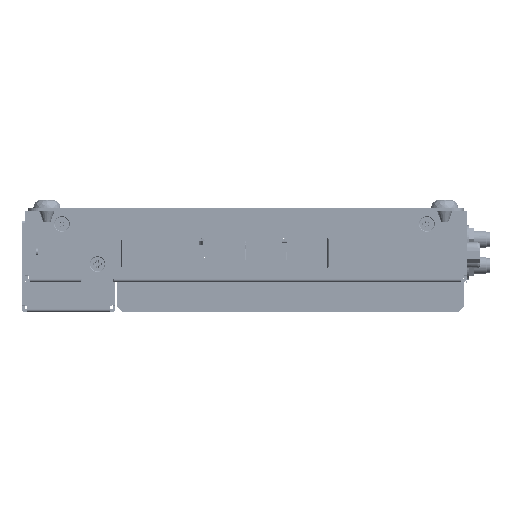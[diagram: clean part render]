
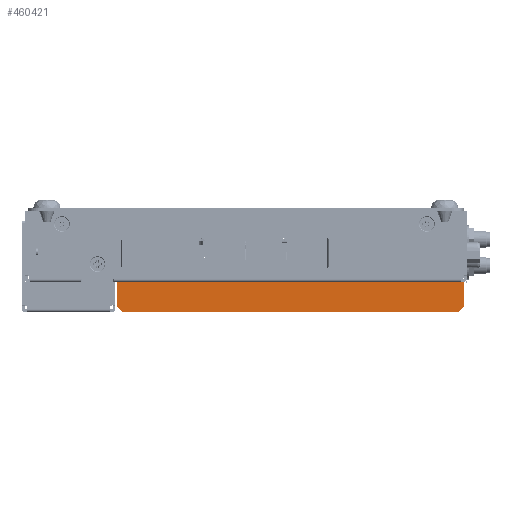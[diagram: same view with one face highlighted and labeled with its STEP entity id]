
A CAD part, left-side view. The second image highlights one B-rep face of the part: STEP entity #460421.
In plain terms, the highlighted planar face has unit normal (-1, 0, 0).
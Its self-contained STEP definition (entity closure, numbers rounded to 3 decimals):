
#103759=DIRECTION('',(0.,1.,0.));
#103760=VECTOR('',#103759,126.5);
#103761=CARTESIAN_POINT('',(-123.5,1.,-17.6));
#103762=LINE('',#103761,#103760);
#120802=DIRECTION('',(0.,0.,-1.));
#120803=VECTOR('',#120802,9.);
#120804=CARTESIAN_POINT('',(-123.5,1.,-17.6));
#120805=LINE('',#120804,#120803);
#120806=DIRECTION('',(0.,0.707,-0.707));
#120807=VECTOR('',#120806,2.828);
#120808=CARTESIAN_POINT('',(-123.5,1.,-26.6));
#120809=LINE('',#120808,#120807);
#120810=DIRECTION('',(0.,0.707,0.707));
#120811=VECTOR('',#120810,2.828);
#120812=CARTESIAN_POINT('',(-123.5,125.5,-28.6));
#120813=LINE('',#120812,#120811);
#120814=DIRECTION('',(0.,0.,1.));
#120815=VECTOR('',#120814,9.);
#120816=CARTESIAN_POINT('',(-123.5,127.5,-26.6));
#120817=LINE('',#120816,#120815);
#124154=DIRECTION('',(0.,1.,0.));
#124155=VECTOR('',#124154,122.5);
#124156=CARTESIAN_POINT('',(-123.5,3.,-28.6));
#124157=LINE('',#124156,#124155);
#201900=CARTESIAN_POINT('',(-123.5,1.,-26.6));
#201901=CARTESIAN_POINT('',(-123.5,3.,-28.6));
#201902=VERTEX_POINT('',#201900);
#201903=VERTEX_POINT('',#201901);
#202153=CARTESIAN_POINT('',(-123.5,127.5,-26.6));
#202155=VERTEX_POINT('',#202153);
#202634=CARTESIAN_POINT('',(-123.5,125.5,-28.6));
#202635=VERTEX_POINT('',#202634);
#255957=CARTESIAN_POINT('',(-123.5,1.,-17.6));
#255959=VERTEX_POINT('',#255957);
#255983=CARTESIAN_POINT('',(-123.5,127.5,-17.6));
#255984=VERTEX_POINT('',#255983);
#460405=CARTESIAN_POINT('',(-123.5,64.25,-23.1));
#460406=DIRECTION('',(1.,0.,0.));
#460407=DIRECTION('',(0.,0.,-1.));
#460408=AXIS2_PLACEMENT_3D('',#460405,#460406,#460407);
#460409=PLANE('',#460408);
#460410=ORIENTED_EDGE('',*,*,#428307,.F.);
#460411=ORIENTED_EDGE('',*,*,#429220,.T.);
#460413=ORIENTED_EDGE('',*,*,#460412,.T.);
#460415=ORIENTED_EDGE('',*,*,#460414,.T.);
#460417=ORIENTED_EDGE('',*,*,#460416,.T.);
#460418=ORIENTED_EDGE('',*,*,#459910,.T.);
#460419=EDGE_LOOP('',(#460410,#460411,#460413,#460415,#460417,#460418));
#460420=FACE_OUTER_BOUND('',#460419,.F.);
#460421=ADVANCED_FACE('',(#460420),#460409,.F.);
#428307=EDGE_CURVE('',#255959,#255984,#103762,.T.);
#429220=EDGE_CURVE('',#255959,#201902,#120805,.T.);
#459910=EDGE_CURVE('',#202155,#255984,#120817,.T.);
#460412=EDGE_CURVE('',#201902,#201903,#120809,.T.);
#460414=EDGE_CURVE('',#201903,#202635,#124157,.T.);
#460416=EDGE_CURVE('',#202635,#202155,#120813,.T.);
